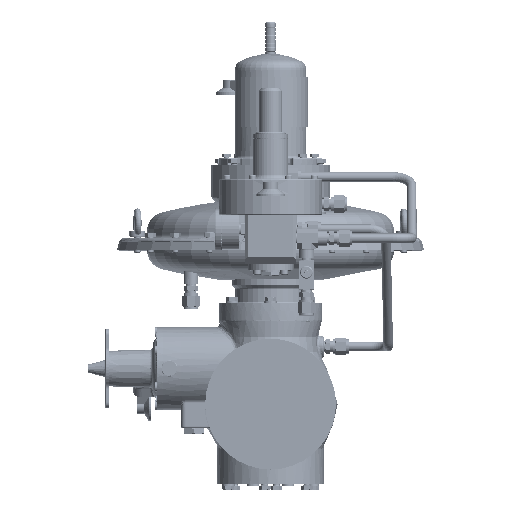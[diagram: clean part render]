
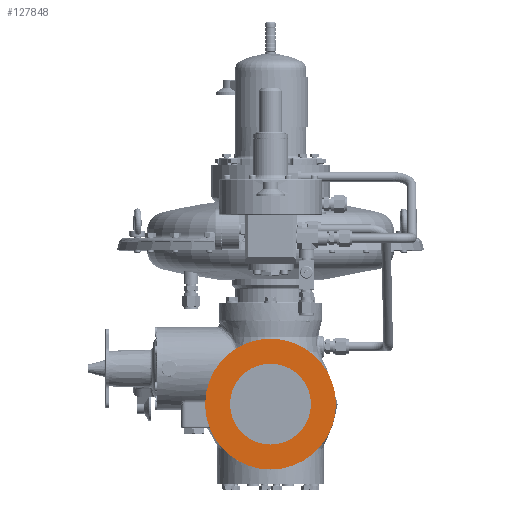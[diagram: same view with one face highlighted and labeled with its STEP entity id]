
A CAD part, top view. The second image highlights one B-rep face of the part: STEP entity #127848.
In plain terms, the highlighted planar face has unit normal (0, 0, 1).
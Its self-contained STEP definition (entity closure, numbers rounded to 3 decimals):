
#46004=CARTESIAN_POINT('',(0.,0.,124.));
#46005=DIRECTION('',(0.,0.,1.));
#46006=DIRECTION('',(-1.,0.,0.));
#46007=AXIS2_PLACEMENT_3D('',#46004,#46005,#46006);
#46009=CARTESIAN_POINT('',(0.,0.,124.));
#46010=DIRECTION('',(0.,0.,1.));
#46011=DIRECTION('',(1.,0.,0.));
#46012=AXIS2_PLACEMENT_3D('',#46009,#46010,#46011);
#46014=CARTESIAN_POINT('',(0.,0.,124.));
#46015=DIRECTION('',(0.,0.,-1.));
#46016=DIRECTION('',(-1.,0.,0.));
#46017=AXIS2_PLACEMENT_3D('',#46014,#46015,#46016);
#46019=CARTESIAN_POINT('',(0.,0.,124.));
#46020=DIRECTION('',(0.,0.,-1.));
#46021=DIRECTION('',(1.,0.,0.));
#46022=AXIS2_PLACEMENT_3D('',#46019,#46020,#46021);
#61306=CARTESIAN_POINT('',(82.5,0.,124.));
#61307=CARTESIAN_POINT('',(-82.5,0.,124.));
#61308=VERTEX_POINT('',#61306);
#61309=VERTEX_POINT('',#61307);
#61310=CARTESIAN_POINT('',(51.,0.,124.));
#61311=CARTESIAN_POINT('',(-51.,0.,124.));
#61312=VERTEX_POINT('',#61310);
#61313=VERTEX_POINT('',#61311);
#127833=CARTESIAN_POINT('',(0.,0.,124.));
#127834=DIRECTION('',(0.,0.,1.));
#127835=DIRECTION('',(1.,0.,0.));
#127836=AXIS2_PLACEMENT_3D('',#127833,#127834,#127835);
#127837=PLANE('',#127836);
#127838=ORIENTED_EDGE('',*,*,#127812,.F.);
#127839=ORIENTED_EDGE('',*,*,#127826,.F.);
#127840=EDGE_LOOP('',(#127838,#127839));
#127841=FACE_OUTER_BOUND('',#127840,.F.);
#127843=ORIENTED_EDGE('',*,*,#127842,.F.);
#127845=ORIENTED_EDGE('',*,*,#127844,.F.);
#127846=EDGE_LOOP('',(#127843,#127845));
#127847=FACE_BOUND('',#127846,.F.);
#127848=ADVANCED_FACE('',(#127841,#127847),#127837,.T.);
#46008=CIRCLE('',#46007,82.5);
#46013=CIRCLE('',#46012,82.5);
#46018=CIRCLE('',#46017,51.);
#46023=CIRCLE('',#46022,51.);
#127812=EDGE_CURVE('',#61309,#61308,#46008,.T.);
#127826=EDGE_CURVE('',#61308,#61309,#46013,.T.);
#127842=EDGE_CURVE('',#61313,#61312,#46018,.T.);
#127844=EDGE_CURVE('',#61312,#61313,#46023,.T.);
